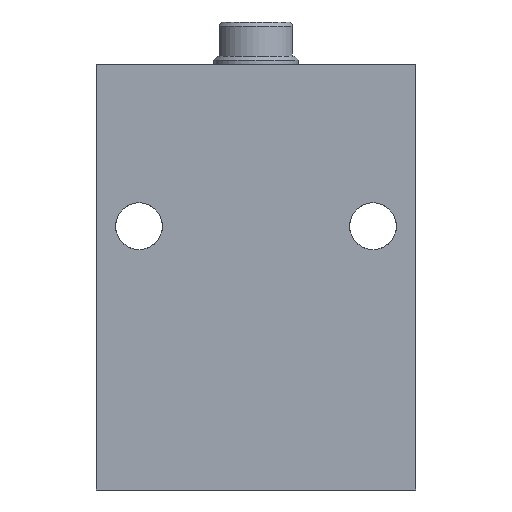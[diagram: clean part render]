
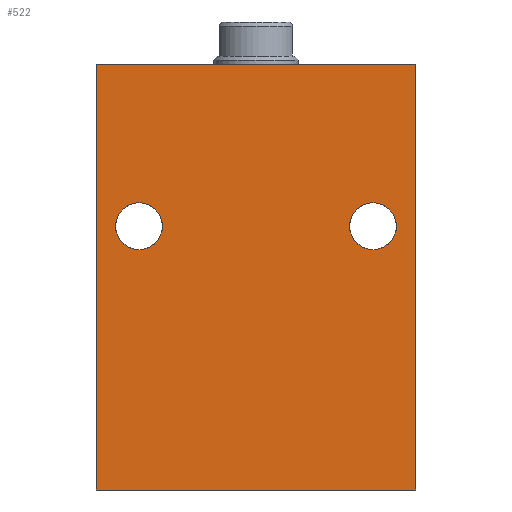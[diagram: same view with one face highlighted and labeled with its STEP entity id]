
A CAD part, front view. The second image highlights one B-rep face of the part: STEP entity #522.
In plain terms, the highlighted planar face has unit normal (0, -1, 0).
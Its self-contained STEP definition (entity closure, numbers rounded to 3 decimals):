
#31 = EDGE_CURVE ( 'NONE', #1909, #1905, #1805, .T. ) ;
#39 = EDGE_CURVE ( 'NONE', #1938, #1906, #1789, .T. ) ;
#41 = EDGE_CURVE ( 'NONE', #1971, #1883, #1785, .T. ) ;
#42 = EDGE_CURVE ( 'NONE', #1902, #1932, #1787, .T. ) ;
#43 = EDGE_CURVE ( 'NONE', #1906, #1905, #1783, .T. ) ;
#44 = EDGE_CURVE ( 'NONE', #1938, #1909, #1781, .T. ) ;
#102 = ORIENTED_EDGE ( 'NONE', *, *, #39, .T. ) ;
#103 = ORIENTED_EDGE ( 'NONE', *, *, #44, .F. ) ;
#104 = ORIENTED_EDGE ( 'NONE', *, *, #31, .F. ) ;
#105 = ORIENTED_EDGE ( 'NONE', *, *, #43, .T. ) ;
#106 = ORIENTED_EDGE ( 'NONE', *, *, #2266, .T. ) ;
#107 = ORIENTED_EDGE ( 'NONE', *, *, #42, .T. ) ;
#108 = ORIENTED_EDGE ( 'NONE', *, *, #2250, .T. ) ;
#109 = ORIENTED_EDGE ( 'NONE', *, *, #41, .T. ) ;
#209 = EDGE_LOOP ( 'NONE', ( #109, #108 ) ) ;
#216 = EDGE_LOOP ( 'NONE', ( #105, #104, #103, #102 ) ) ;
#256 = EDGE_LOOP ( 'NONE', ( #107, #106 ) ) ;
#522 = ADVANCED_FACE ( 'NONE', ( #1745, #1741, #1744 ), #1412, .F. ) ;
#650 = DIRECTION ( 'NONE',  ( 0., 0., 1. ) ) ;
#651 = DIRECTION ( 'NONE',  ( 0., 1., 0. ) ) ;
#652 = CARTESIAN_POINT ( 'NONE',  ( 27.5, -27.5, 62. ) ) ;
#961 = CARTESIAN_POINT ( 'NONE',  ( -27.5, -27.5, 62. ) ) ;
#998 = DIRECTION ( 'NONE',  ( 0., 0., 1. ) ) ;
#999 = DIRECTION ( 'NONE',  ( 0., 1., 0. ) ) ;
#1062 = CARTESIAN_POINT ( 'NONE',  ( -27.5, -27.5, 62. ) ) ;
#1093 = DIRECTION ( 'NONE',  ( 1., 0., 0. ) ) ;
#1100 = DIRECTION ( 'NONE',  ( 0., 1., 0. ) ) ;
#1119 = DIRECTION ( 'NONE',  ( 0., 0., -1. ) ) ;
#1125 = CARTESIAN_POINT ( 'NONE',  ( -37.5, -27.5, 100. ) ) ;
#1182 = CARTESIAN_POINT ( 'NONE',  ( -27.5, -27.5, 67.5 ) ) ;
#1223 = CARTESIAN_POINT ( 'NONE',  ( -37.5, -27.5, 100. ) ) ;
#1232 = CARTESIAN_POINT ( 'NONE',  ( 27.5, -27.5, 56.5 ) ) ;
#1265 = CARTESIAN_POINT ( 'NONE',  ( 37.5, -27.5, 100. ) ) ;
#1269 = CARTESIAN_POINT ( 'NONE',  ( -37.5, -27.5, 0. ) ) ;
#1271 = CARTESIAN_POINT ( 'NONE',  ( 37.5, -27.5, 0. ) ) ;
#1278 = CARTESIAN_POINT ( 'NONE',  ( 27.5, -27.5, 67.5 ) ) ;
#1303 = CARTESIAN_POINT ( 'NONE',  ( -27.5, -27.5, 56.5 ) ) ;
#1336 = DIRECTION ( 'NONE',  ( 0., 0., -1. ) ) ;
#1410 = DIRECTION ( 'NONE',  ( 0., 0., 1. ) ) ;
#1412 = PLANE ( 'NONE',  #2117 ) ;
#1414 = CARTESIAN_POINT ( 'NONE',  ( -37.5, -27.5, 100. ) ) ;
#1419 = CARTESIAN_POINT ( 'NONE',  ( 37.5, -27.5, 100. ) ) ;
#1422 = DIRECTION ( 'NONE',  ( 0., 1., 0. ) ) ;
#1430 = DIRECTION ( 'NONE',  ( 0., 0., 1. ) ) ;
#1505 = CARTESIAN_POINT ( 'NONE',  ( 27.5, -27.5, 62. ) ) ;
#1512 = DIRECTION ( 'NONE',  ( 1., 0., 0. ) ) ;
#1516 = CARTESIAN_POINT ( 'NONE',  ( -37.5, -27.5, 100. ) ) ;
#1517 = DIRECTION ( 'NONE',  ( 0., 0., 1. ) ) ;
#1518 = DIRECTION ( 'NONE',  ( 0., 1., 0. ) ) ;
#1519 = CARTESIAN_POINT ( 'NONE',  ( -37.5, -27.5, 0. ) ) ;
#1741 = FACE_BOUND ( 'NONE', #256, .T. ) ;
#1744 = FACE_OUTER_BOUND ( 'NONE', #216, .T. ) ;
#1745 = FACE_BOUND ( 'NONE', #209, .T. ) ;
#1778 = VECTOR ( 'NONE', #1512, 1000. ) ;
#1780 = VECTOR ( 'NONE', #1093, 1000. ) ;
#1781 = LINE ( 'NONE', #1516, #1778 ) ;
#1783 = LINE ( 'NONE', #1519, #1780 ) ;
#1785 = CIRCLE ( 'NONE', #2111, 5.5 ) ;
#1786 = VECTOR ( 'NONE', #1119, 1000. ) ;
#1787 = CIRCLE ( 'NONE', #2118, 5.5 ) ;
#1789 = LINE ( 'NONE', #1125, #1786 ) ;
#1799 = VECTOR ( 'NONE', #1336, 1000. ) ;
#1802 = CIRCLE ( 'NONE', #2044, 5.5 ) ;
#1805 = LINE ( 'NONE', #1419, #1799 ) ;
#1883 = VERTEX_POINT ( 'NONE', #1303 ) ;
#1902 = VERTEX_POINT ( 'NONE', #1278 ) ;
#1905 = VERTEX_POINT ( 'NONE', #1271 ) ;
#1906 = VERTEX_POINT ( 'NONE', #1269 ) ;
#1909 = VERTEX_POINT ( 'NONE', #1265 ) ;
#1932 = VERTEX_POINT ( 'NONE', #1232 ) ;
#1938 = VERTEX_POINT ( 'NONE', #1223 ) ;
#1971 = VERTEX_POINT ( 'NONE', #1182 ) ;
#2033 = AXIS2_PLACEMENT_3D ( 'NONE', #652, #651, #650 ) ;
#2044 = AXIS2_PLACEMENT_3D ( 'NONE', #961, #999, #998 ) ;
#2111 = AXIS2_PLACEMENT_3D ( 'NONE', #1062, #1100, #1430 ) ;
#2117 = AXIS2_PLACEMENT_3D ( 'NONE', #1414, #1422, #1410 ) ;
#2118 = AXIS2_PLACEMENT_3D ( 'NONE', #1505, #1518, #1517 ) ;
#2250 = EDGE_CURVE ( 'NONE', #1883, #1971, #1802, .T. ) ;
#2266 = EDGE_CURVE ( 'NONE', #1932, #1902, #2458, .T. ) ;
#2458 = CIRCLE ( 'NONE', #2033, 5.5 ) ;
